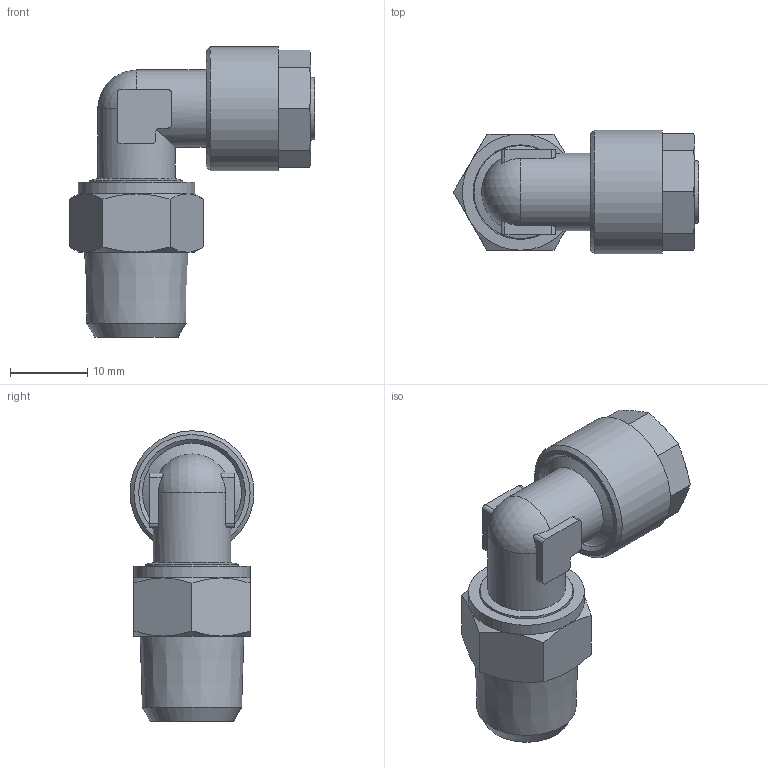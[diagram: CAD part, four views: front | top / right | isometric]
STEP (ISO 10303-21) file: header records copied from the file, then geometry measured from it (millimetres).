
FILE_DESCRIPTION(/* description */ (''),/* implementation_level */ '2;1');
FILE_NAME(/* name */ '11105_305DK_108_R14_19.07.17',/* time_stamp */ '2017-07-19T11:29:22+02:00',/* author */ (''),/* organization */ (''),/* preprocessor_version */ 'ST-DEVELOPER v16.5',/* originating_system */ 'HiCAD 2016 2102.2 Build 618',/* authorisation */ '');
FILE_SCHEMA (('AUTOMOTIVE_DESIGN { 1 0 10303 214 1 1 1 1 }'));
Length unit declared in the file: millimetre
Products named in the file (4): Root; 17007; 11105_Gewinde; 11105_Anschluss
Assembly tree (3 placements, depth 2):
  Root
    17007
    11105_Gewinde
    11105_Anschluss
Bounding box: 31.66 x 16 x 37.5 mm (x, y, z)
Volume: 4681.3 mm3; surface area: 5561.5 mm2
Topology: 3 solids, 3 shells, 99 faces, 244 edges, 157 vertices
Faces by surface type: plane 39, cone 33, cylinder 25, torus 1, sphere 1
Full cylindrical faces by diameter (mm): 7 x1, 8 x2, 8.5 x1, 10 x3, 12 x1, 12.2 x1, 12.773 x1, 14 x1, 15 x1, 16 x1
Entity records: 7794 total; most frequent: CARTESIAN_POINT 3463, DIRECTION 510, PRESENTATION_STYLE_ASSIGNMENT 413, COLOUR_RGB 411, DRAUGHTING_PRE_DEFINED_CURVE_FONT 410, CURVE_STYLE 410, OVER_RIDING_STYLED_ITEM 410, ORIENTED_EDGE 410
